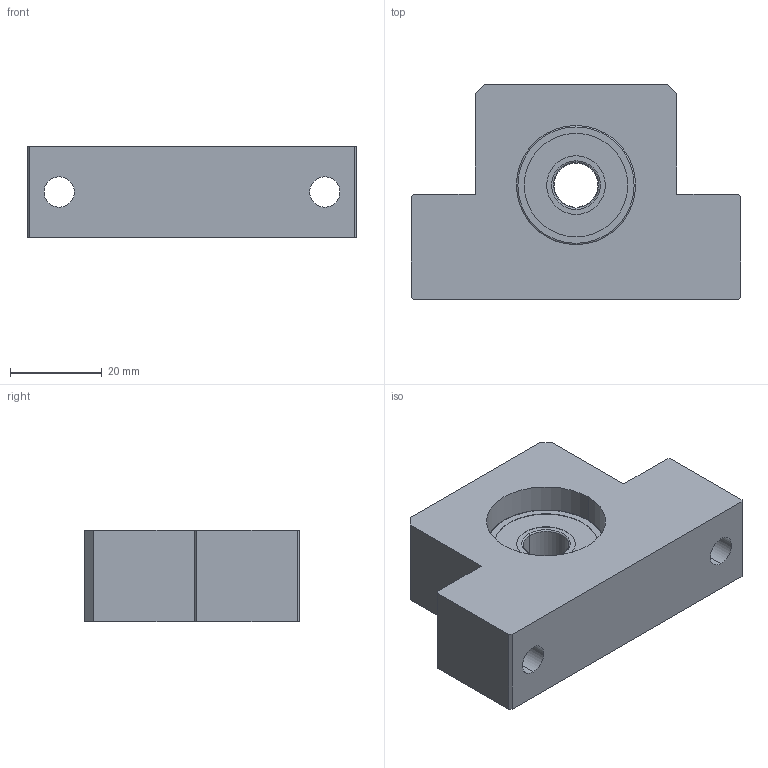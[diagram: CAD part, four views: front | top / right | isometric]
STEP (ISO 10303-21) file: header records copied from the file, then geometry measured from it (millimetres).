
FILE_DESCRIPTION (( 'STEP AP214' ), '1' );
FILE_NAME ('F-SBU-12.40.4.STEP', '2023-04-10T08:09:55', ( '' ), ( '' ), 'SwSTEP 2.0', 'SolidWorks 2021', '' );
FILE_SCHEMA (( 'AUTOMOTIVE_DESIGN' ));
Length unit declared in the file: millimetre
Products named in the file (9): 6000ZZ Shield2; F-SBU-12.40.4; F-SBU-12.40.4 BODY; 6000ZZ Ball; 6000ZZ Shield1; 6000ZZ; STWN10; 6000ZZ Outer ring; 6000ZZ Inner ring
Assembly tree (20 placements, depth 3):
  F-SBU-12.40.4
    F-SBU-12.40.4 BODY
    6000ZZ
      6000ZZ Shield2
      6000ZZ Ball  x13
      6000ZZ Inner ring
      6000ZZ Shield1
      6000ZZ Outer ring
    STWN10
Bounding box: 72 x 47 x 20 mm (x, y, z)
Volume: 44559.8 mm3; surface area: 15808.3 mm2
Topology: 19 solids, 19 shells, 121 faces, 314 edges, 209 vertices
Faces by surface type: cylinder 45, plane 36, sphere 26, torus 14
Entity records: 3287 total; most frequent: DIRECTION 583, CARTESIAN_POINT 492, ORIENTED_EDGE 450, AXIS2_PLACEMENT_3D 237, EDGE_CURVE 225, VERTEX_POINT 146, EDGE_LOOP 119, CIRCLE 116
